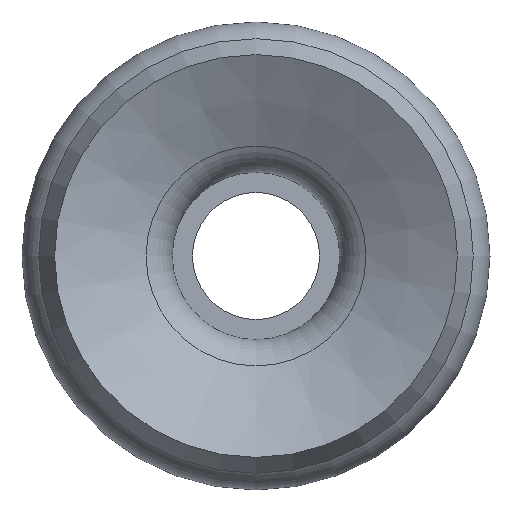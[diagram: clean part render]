
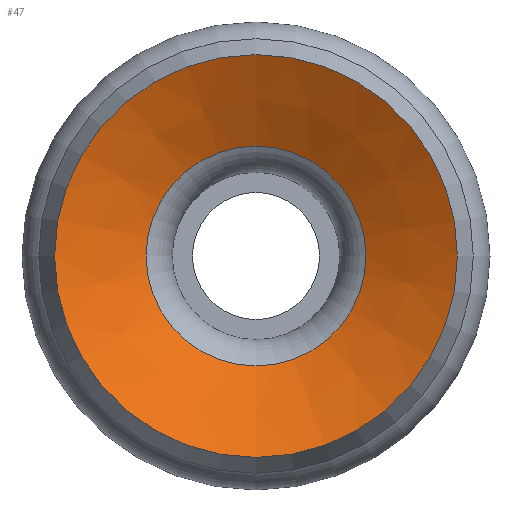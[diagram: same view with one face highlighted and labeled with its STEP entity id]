
A CAD part, front view. The second image highlights one B-rep face of the part: STEP entity #47.
In plain terms, the highlighted conical face has half-angle 61.596 degrees and reference radius 6.302 mm.
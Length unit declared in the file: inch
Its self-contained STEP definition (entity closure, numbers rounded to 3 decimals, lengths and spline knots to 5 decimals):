
#18 = CARTESIAN_POINT ( 'NONE',  ( 0., 0.06098, 0. ) ) ;
#37 = CARTESIAN_POINT ( 'NONE',  ( 0., 0., 0. ) ) ;
#47 = ADVANCED_FACE ( 'NONE', ( #235, #88 ), #155, .F. ) ;
#54 = ORIENTED_EDGE ( 'NONE', *, *, #353, .F. ) ;
#67 = DIRECTION ( 'NONE',  ( 0., -1., 0. ) ) ;
#79 = DIRECTION ( 'NONE',  ( 0., 0., -1. ) ) ;
#82 = ORIENTED_EDGE ( 'NONE', *, *, #273, .T. ) ;
#88 = FACE_OUTER_BOUND ( 'NONE', #117, .T. ) ;
#117 = EDGE_LOOP ( 'NONE', ( #82 ) ) ;
#122 = AXIS2_PLACEMENT_3D ( 'NONE', #18, #194, #139 ) ;
#134 = DIRECTION ( 'NONE',  ( 0., 0., -1. ) ) ;
#139 = DIRECTION ( 'NONE',  ( 0., 0., -1. ) ) ;
#143 = CARTESIAN_POINT ( 'NONE',  ( 0., 0.06098, -0.13536 ) ) ;
#155 = CONICAL_SURFACE ( 'NONE', #348, 0.24812, 1.075 ) ;
#167 = DIRECTION ( 'NONE',  ( 0., -1., 0. ) ) ;
#182 = AXIS2_PLACEMENT_3D ( 'NONE', #37, #67, #134 ) ;
#194 = DIRECTION ( 'NONE',  ( 0., -1., 0. ) ) ;
#207 = VERTEX_POINT ( 'NONE', #285 ) ;
#208 = CIRCLE ( 'NONE', #122, 0.13536 ) ;
#235 = FACE_BOUND ( 'NONE', #237, .T. ) ;
#237 = EDGE_LOOP ( 'NONE', ( #54 ) ) ;
#251 = CIRCLE ( 'NONE', #182, 0.24812 ) ;
#273 = EDGE_CURVE ( 'NONE', #207, #207, #251, .T. ) ;
#285 = CARTESIAN_POINT ( 'NONE',  ( 0., 0., -0.24812 ) ) ;
#348 = AXIS2_PLACEMENT_3D ( 'NONE', #372, #167, #79 ) ;
#353 = EDGE_CURVE ( 'NONE', #359, #359, #208, .T. ) ;
#359 = VERTEX_POINT ( 'NONE', #143 ) ;
#372 = CARTESIAN_POINT ( 'NONE',  ( 0., 0., 0. ) ) ;
